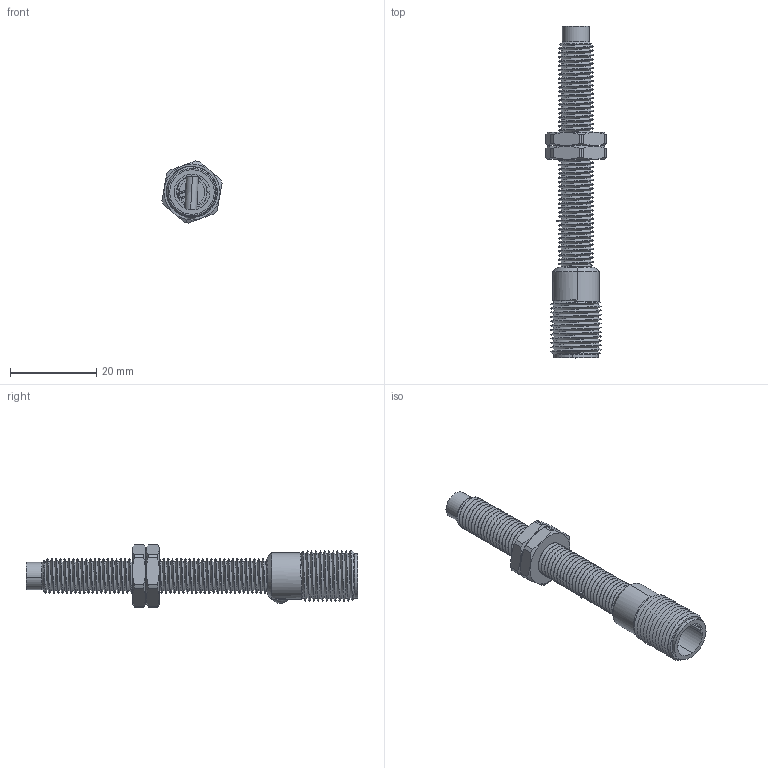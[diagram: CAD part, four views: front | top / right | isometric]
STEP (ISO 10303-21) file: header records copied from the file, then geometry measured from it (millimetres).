
FILE_DESCRIPTION (( 'STEP AP214' ), '1' );
FILE_NAME ('IPS08 SOKETLÝ MODEL.STEP', '2022-06-24T07:14:26', ( '' ), ( '' ), 'SwSTEP 2.0', 'SolidWorks 2014', '' );
FILE_SCHEMA (( 'AUTOMOTIVE_DESIGN' ));
Length unit declared in the file: millimetre
Products named in the file (1): IPS08 SOKETLÝ MODEL
Bounding box: 13.93 x 77 x 14.41 mm (x, y, z)
Surface area: 4612.7 mm2 (no closed solid volume)
Topology: 0 solids, 17 shells, 237 faces, 673 edges, 453 vertices
Faces by surface type: cylinder 144, plane 44, cone 42, bspline 5, sphere 2
Entity records: 16163 total; most frequent: CARTESIAN_POINT 8117, ORIENTED_EDGE 1233, DIRECTION 996, EDGE_CURVE 673, VERTEX_POINT 453, AXIS2_PLACEMENT_3D 373, LINE 250, VECTOR 250
